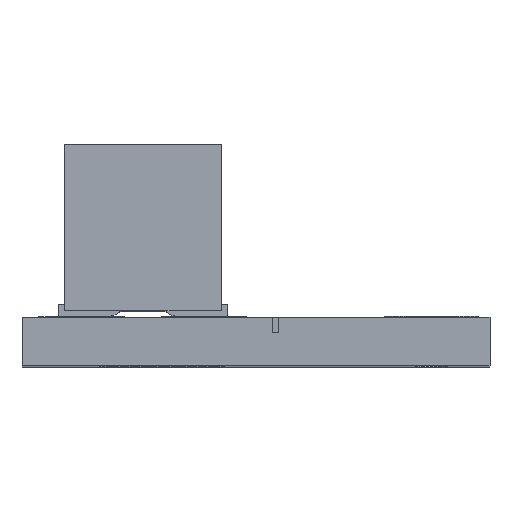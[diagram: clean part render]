
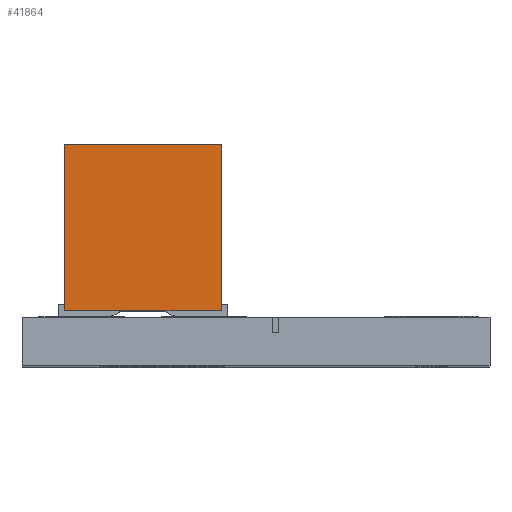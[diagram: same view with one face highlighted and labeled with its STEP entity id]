
A CAD part, top view. The second image highlights one B-rep face of the part: STEP entity #41864.
In plain terms, the highlighted planar face has unit normal (0, 0, 1).
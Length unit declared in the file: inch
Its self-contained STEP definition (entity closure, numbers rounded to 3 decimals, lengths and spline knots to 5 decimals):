
#2603 = VECTOR ( 'NONE', #17517, 39.37008 ) ;
#4722 = CARTESIAN_POINT ( 'NONE',  ( -0.145, 0.04012, 0.24902 ) ) ;
#7813 = AXIS2_PLACEMENT_3D ( 'NONE', #4722, #55912, #12123 ) ;
#11886 = EDGE_CURVE ( 'NONE', #51675, #17764, #86591, .T. ) ;
#12123 = DIRECTION ( 'NONE',  ( -1., 0., 0. ) ) ;
#15515 = CARTESIAN_POINT ( 'NONE',  ( -0.04461, 0.04012, 0.24902 ) ) ;
#17517 = DIRECTION ( 'NONE',  ( 1., 0., 0. ) ) ;
#17764 = VERTEX_POINT ( 'NONE', #90881 ) ;
#19003 = DIRECTION ( 'NONE',  ( 0., 1., 0. ) ) ;
#21554 = LINE ( 'NONE', #91460, #94606 ) ;
#21924 = DIRECTION ( 'NONE',  ( 0., -1., 0. ) ) ;
#22092 = LINE ( 'NONE', #24550, #2603 ) ;
#22351 = VERTEX_POINT ( 'NONE', #29847 ) ;
#24550 = CARTESIAN_POINT ( 'NONE',  ( -0.24539, 0.25272, 0.24902 ) ) ;
#25665 = CARTESIAN_POINT ( 'NONE',  ( -0.04461, 0.04012, 0.24902 ) ) ;
#29847 = CARTESIAN_POINT ( 'NONE',  ( -0.24539, 0.25272, 0.24902 ) ) ;
#33954 = EDGE_CURVE ( 'NONE', #47418, #51675, #92895, .T. ) ;
#34657 = VECTOR ( 'NONE', #21924, 39.37008 ) ;
#39776 = ORIENTED_EDGE ( 'NONE', *, *, #79957, .F. ) ;
#41864 = ADVANCED_FACE ( 'NONE', ( #62973 ), #62994, .F. ) ;
#45740 = ORIENTED_EDGE ( 'NONE', *, *, #61856, .F. ) ;
#47418 = VERTEX_POINT ( 'NONE', #81089 ) ;
#51675 = VERTEX_POINT ( 'NONE', #25665 ) ;
#53216 = DIRECTION ( 'NONE',  ( -1., 0., 0. ) ) ;
#53944 = CARTESIAN_POINT ( 'NONE',  ( -0.145, 0.04012, 0.24902 ) ) ;
#55912 = DIRECTION ( 'NONE',  ( 0., 0., -1. ) ) ;
#61856 = EDGE_CURVE ( 'NONE', #22351, #47418, #22092, .T. ) ;
#62973 = FACE_OUTER_BOUND ( 'NONE', #72739, .T. ) ;
#62994 = PLANE ( 'NONE',  #7813 ) ;
#72739 = EDGE_LOOP ( 'NONE', ( #39776, #75432, #75528, #45740 ) ) ;
#75432 = ORIENTED_EDGE ( 'NONE', *, *, #11886, .F. ) ;
#75528 = ORIENTED_EDGE ( 'NONE', *, *, #33954, .F. ) ;
#79957 = EDGE_CURVE ( 'NONE', #17764, #22351, #21554, .T. ) ;
#81089 = CARTESIAN_POINT ( 'NONE',  ( -0.04461, 0.25272, 0.24902 ) ) ;
#84339 = VECTOR ( 'NONE', #53216, 39.37008 ) ;
#86591 = LINE ( 'NONE', #53944, #84339 ) ;
#90881 = CARTESIAN_POINT ( 'NONE',  ( -0.24539, 0.04012, 0.24902 ) ) ;
#91460 = CARTESIAN_POINT ( 'NONE',  ( -0.24539, 0.04012, 0.24902 ) ) ;
#92895 = LINE ( 'NONE', #15515, #34657 ) ;
#94606 = VECTOR ( 'NONE', #19003, 39.37008 ) ;
